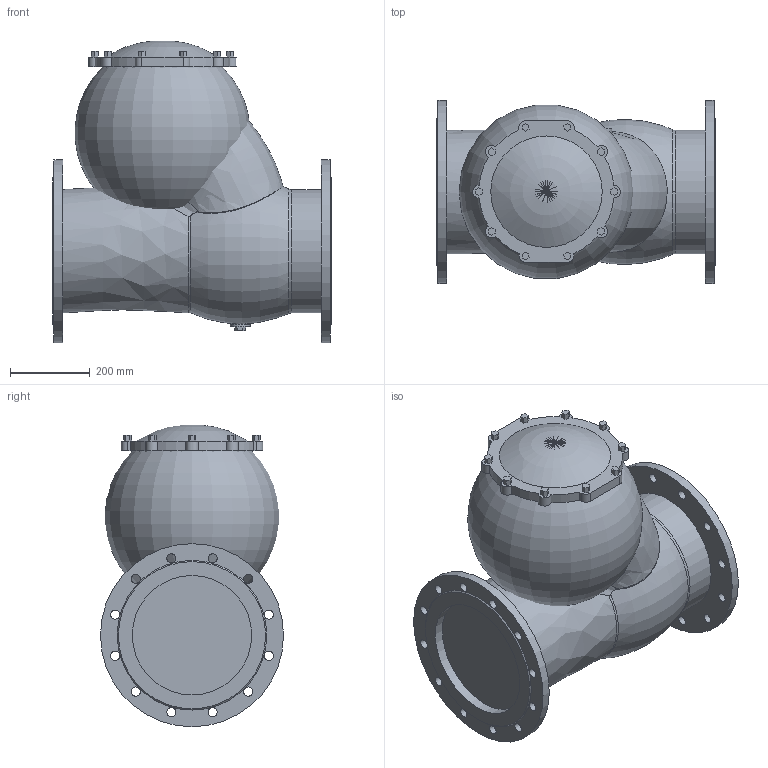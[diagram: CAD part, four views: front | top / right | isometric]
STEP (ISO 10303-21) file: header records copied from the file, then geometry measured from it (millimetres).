
FILE_DESCRIPTION(('STEP AP203'), '1');
FILE_NAME('抔黽鳧 012F.M DN300_PN10', '', ('UNSPECIFIED'), ('UNSPECIFIED'), 'ASCON STEP Converter 1.6', 'ASCON Math Kernel', '');
FILE_SCHEMA(('CONFIG_CONTROL_DESIGN'));
Length unit declared in the file: millimetre
Products named in the file (1): Клапан 012F.M DN300_PN10
Bounding box: 700 x 460 x 757.66 mm (x, y, z)
Volume: 7124278 mm3; surface area: 3186885.5 mm2
Topology: 1 solids, 2 shells, 175 faces, 445 edges, 296 vertices
Faces by surface type: plane 105, cylinder 57, bspline 6, torus 5, cone 2
Full cylindrical faces by diameter (mm): 23 x24, 50 x1, 300 x2, 310 x1, 460 x2
Entity records: 9781 total; most frequent: CARTESIAN_POINT 4127, DIRECTION 835, ORIENTED_EDGE 810, EDGE_CURVE 405, VERTEX_POINT 294, AXIS2_PLACEMENT_3D 290, EDGE_LOOP 283, LINE 255
